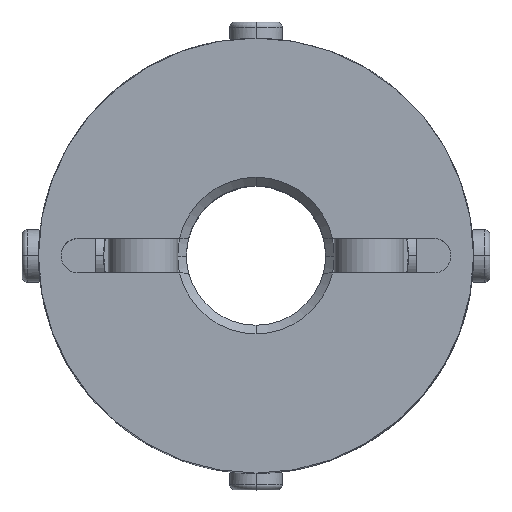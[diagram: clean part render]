
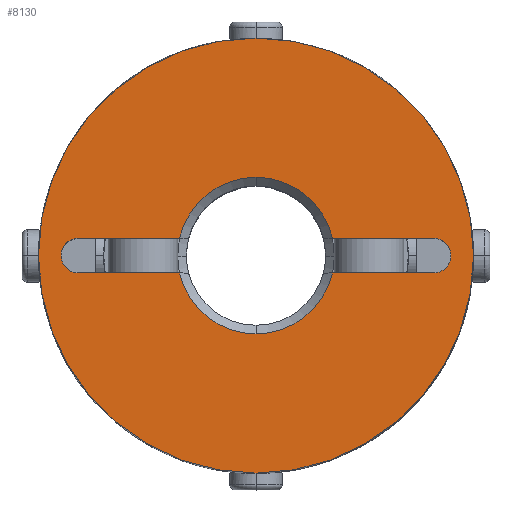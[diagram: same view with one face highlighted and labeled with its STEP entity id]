
A CAD part, top view. The second image highlights one B-rep face of the part: STEP entity #8130.
In plain terms, the highlighted planar face has unit normal (0, 0, 1).
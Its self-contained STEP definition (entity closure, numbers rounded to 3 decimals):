
#885=CARTESIAN_POINT('',(0.,12.5,13.5));
#886=VERTEX_POINT('',#885);
#893=CARTESIAN_POINT('',(0.,-12.5,13.5));
#894=VERTEX_POINT('',#893);
#895=CARTESIAN_POINT('',(0.,0.0,13.5));
#896=DIRECTION('',(0.0,0.0,-1.0));
#897=DIRECTION('',(0.0,-1.0,0.0));
#898=AXIS2_PLACEMENT_3D('',#895,#896,#897);
#899=CIRCLE('',#898,12.5);
#900=EDGE_CURVE('',#886,#894,#899,.T.);
#1153=CARTESIAN_POINT('',(10.907,0.707,13.5));
#1154=VERTEX_POINT('',#1153);
#1170=CARTESIAN_POINT('',(10.2,-1.,13.5));
#1171=VERTEX_POINT('',#1170);
#1178=CARTESIAN_POINT('',(10.2,0.,13.5));
#1179=DIRECTION('',(0.0,0.0,1.0));
#1180=DIRECTION('',(0.707,-0.707,0.0));
#1181=AXIS2_PLACEMENT_3D('',#1178,#1179,#1180);
#1182=CIRCLE('',#1181,1.0);
#1183=EDGE_CURVE('',#1171,#1154,#1182,.T.);
#1195=CARTESIAN_POINT('',(-10.907,-0.707,13.5));
#1196=VERTEX_POINT('',#1195);
#1212=CARTESIAN_POINT('',(-10.2,1.,13.5));
#1213=VERTEX_POINT('',#1212);
#1220=CARTESIAN_POINT('',(-10.2,0.,13.5));
#1221=DIRECTION('',(0.0,0.0,1.0));
#1222=DIRECTION('',(-0.707,0.707,0.0));
#1223=AXIS2_PLACEMENT_3D('',#1220,#1221,#1222);
#1224=CIRCLE('',#1223,1.0);
#1225=EDGE_CURVE('',#1213,#1196,#1224,.T.);
#1235=CARTESIAN_POINT('',(0.,4.5,13.5));
#1236=VERTEX_POINT('',#1235);
#1244=CARTESIAN_POINT('',(4.387,1.,13.5));
#1245=VERTEX_POINT('',#1244);
#1259=CARTESIAN_POINT('',(0.,0.0,13.5));
#1260=DIRECTION('',(0.0,0.0,1.0));
#1261=DIRECTION('',(0.0,1.0,0.0));
#1262=AXIS2_PLACEMENT_3D('',#1259,#1260,#1261);
#1263=CIRCLE('',#1262,4.5);
#1264=EDGE_CURVE('',#1245,#1236,#1263,.T.);
#1276=CARTESIAN_POINT('',(0.,-4.5,13.5));
#1277=VERTEX_POINT('',#1276);
#1293=CARTESIAN_POINT('',(-4.387,-1.,13.5));
#1294=VERTEX_POINT('',#1293);
#1308=CARTESIAN_POINT('',(0.,0.0,13.5));
#1309=DIRECTION('',(0.0,0.0,1.0));
#1310=DIRECTION('',(0.0,-1.0,0.0));
#1311=AXIS2_PLACEMENT_3D('',#1308,#1309,#1310);
#1312=CIRCLE('',#1311,4.5);
#1313=EDGE_CURVE('',#1294,#1277,#1312,.T.);
#7922=CARTESIAN_POINT('',(-10.2,-1.,13.5));
#7923=VERTEX_POINT('',#7922);
#7930=CARTESIAN_POINT('',(-4.387,-1.,13.5));
#7931=DIRECTION('',(-1.0,0.0,0.0));
#7932=VECTOR('',#7931,5.813);
#7933=LINE('',#7930,#7932);
#7934=EDGE_CURVE('',#1294,#7923,#7933,.T.);
#7991=CARTESIAN_POINT('',(-4.387,1.,13.5));
#7992=VERTEX_POINT('',#7991);
#8006=CARTESIAN_POINT('',(-10.2,1.,13.5));
#8007=DIRECTION('',(1.0,0.0,0.0));
#8008=VECTOR('',#8007,5.813);
#8009=LINE('',#8006,#8008);
#8010=EDGE_CURVE('',#1213,#7992,#8009,.T.);
#8027=CARTESIAN_POINT('',(4.387,-1.,13.5));
#8028=VERTEX_POINT('',#8027);
#8029=CARTESIAN_POINT('',(0.,0.0,13.5));
#8030=DIRECTION('',(0.0,0.0,1.0));
#8031=DIRECTION('',(0.0,-1.0,0.0));
#8032=AXIS2_PLACEMENT_3D('',#8029,#8030,#8031);
#8033=CIRCLE('',#8032,4.5);
#8034=EDGE_CURVE('',#1277,#8028,#8033,.T.);
#8061=CARTESIAN_POINT('',(10.2,-1.,13.5));
#8062=DIRECTION('',(-1.0,0.0,0.0));
#8063=VECTOR('',#8062,5.813);
#8064=LINE('',#8061,#8063);
#8065=EDGE_CURVE('',#1171,#8028,#8064,.T.);
#8076=CARTESIAN_POINT('',(0.,-1.136,13.5));
#8077=DIRECTION('',(0.0,0.0,1.0));
#8078=DIRECTION('',(0.0,-1.0,0.0));
#8079=AXIS2_PLACEMENT_3D('',#8076,#8077,#8078);
#8080=PLANE('',#8079);
#8081=CARTESIAN_POINT('',(0.,0.0,13.5));
#8082=DIRECTION('',(0.0,0.0,-1.0));
#8083=DIRECTION('',(0.0,-1.0,0.0));
#8084=AXIS2_PLACEMENT_3D('',#8081,#8082,#8083);
#8085=CIRCLE('',#8084,12.5);
#8086=EDGE_CURVE('',#894,#886,#8085,.T.);
#8087=ORIENTED_EDGE('',*,*,#8086,.F.);
#8088=ORIENTED_EDGE('',*,*,#900,.F.);
#8089=EDGE_LOOP('',(#8087,#8088));
#8090=FACE_OUTER_BOUND('',#8089,.T.);
#8091=ORIENTED_EDGE('',*,*,#1313,.F.);
#8092=ORIENTED_EDGE('',*,*,#7934,.T.);
#8093=CARTESIAN_POINT('',(-10.2,0.,13.5));
#8094=DIRECTION('',(0.0,0.0,1.0));
#8095=DIRECTION('',(-0.707,0.707,0.0));
#8096=AXIS2_PLACEMENT_3D('',#8093,#8094,#8095);
#8097=CIRCLE('',#8096,1.0);
#8098=EDGE_CURVE('',#1196,#7923,#8097,.T.);
#8099=ORIENTED_EDGE('',*,*,#8098,.F.);
#8100=ORIENTED_EDGE('',*,*,#1225,.F.);
#8101=ORIENTED_EDGE('',*,*,#8010,.T.);
#8102=CARTESIAN_POINT('',(0.,0.0,13.5));
#8103=DIRECTION('',(0.0,0.0,1.0));
#8104=DIRECTION('',(0.0,1.0,0.0));
#8105=AXIS2_PLACEMENT_3D('',#8102,#8103,#8104);
#8106=CIRCLE('',#8105,4.5);
#8107=EDGE_CURVE('',#1236,#7992,#8106,.T.);
#8108=ORIENTED_EDGE('',*,*,#8107,.F.);
#8109=ORIENTED_EDGE('',*,*,#1264,.F.);
#8110=CARTESIAN_POINT('',(10.2,1.,13.5));
#8111=VERTEX_POINT('',#8110);
#8112=CARTESIAN_POINT('',(4.387,1.,13.5));
#8113=DIRECTION('',(1.0,0.0,0.0));
#8114=VECTOR('',#8113,5.813);
#8115=LINE('',#8112,#8114);
#8116=EDGE_CURVE('',#1245,#8111,#8115,.T.);
#8117=ORIENTED_EDGE('',*,*,#8116,.T.);
#8118=CARTESIAN_POINT('',(10.2,0.,13.5));
#8119=DIRECTION('',(0.0,0.0,1.0));
#8120=DIRECTION('',(0.707,-0.707,0.0));
#8121=AXIS2_PLACEMENT_3D('',#8118,#8119,#8120);
#8122=CIRCLE('',#8121,1.0);
#8123=EDGE_CURVE('',#1154,#8111,#8122,.T.);
#8124=ORIENTED_EDGE('',*,*,#8123,.F.);
#8125=ORIENTED_EDGE('',*,*,#1183,.F.);
#8126=ORIENTED_EDGE('',*,*,#8065,.T.);
#8127=ORIENTED_EDGE('',*,*,#8034,.F.);
#8128=EDGE_LOOP('',(#8091,#8092,#8099,#8100,#8101,#8108,#8109,#8117,#8124,#8125,#8126,#8127));
#8129=FACE_BOUND('',#8128,.T.);
#8130=ADVANCED_FACE('',(#8090,#8129),#8080,.T.);
